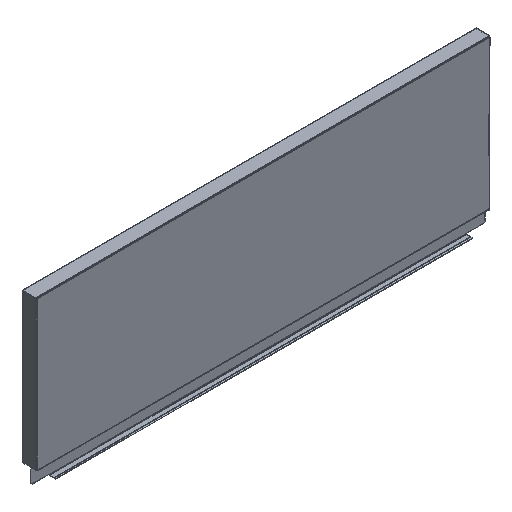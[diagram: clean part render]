
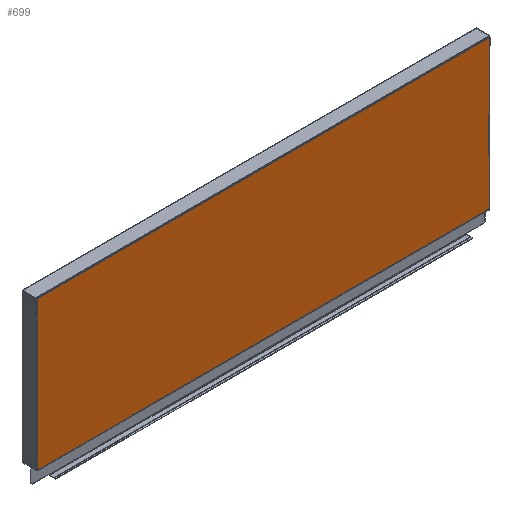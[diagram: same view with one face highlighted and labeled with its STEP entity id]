
A CAD part, isometric view. The second image highlights one B-rep face of the part: STEP entity #699.
In plain terms, the highlighted planar face has unit normal (0, -1, 0).
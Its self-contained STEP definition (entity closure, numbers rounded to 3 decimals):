
#107 = DIRECTION ( 'NONE',  ( 1., 0., 0. ) ) ;
#109 = DIRECTION ( 'NONE',  ( 0., -1., 0. ) ) ;
#110 = CARTESIAN_POINT ( 'NONE',  ( -255., -6., 17. ) ) ;
#111 = PLANE ( 'NONE',  #1272 ) ;
#162 = VERTEX_POINT ( 'NONE', #443 ) ;
#168 = VERTEX_POINT ( 'NONE', #441 ) ;
#170 = VERTEX_POINT ( 'NONE', #440 ) ;
#175 = VERTEX_POINT ( 'NONE', #439 ) ;
#177 = VERTEX_POINT ( 'NONE', #438 ) ;
#250 = VERTEX_POINT ( 'NONE', #416 ) ;
#262 = VERTEX_POINT ( 'NONE', #412 ) ;
#265 = VERTEX_POINT ( 'NONE', #411 ) ;
#295 = VERTEX_POINT ( 'NONE', #402 ) ;
#394 = CARTESIAN_POINT ( 'NONE',  ( 253.5, -6., 17.5 ) ) ;
#402 = CARTESIAN_POINT ( 'NONE',  ( 254., -6., 183.5 ) ) ;
#411 = CARTESIAN_POINT ( 'NONE',  ( 254., -6., 184. ) ) ;
#412 = CARTESIAN_POINT ( 'NONE',  ( 254., -6., 17.5 ) ) ;
#416 = CARTESIAN_POINT ( 'NONE',  ( -254., -6., 184. ) ) ;
#438 = CARTESIAN_POINT ( 'NONE',  ( 253.5, -6., 17. ) ) ;
#439 = CARTESIAN_POINT ( 'NONE',  ( -254., -6., 183.5 ) ) ;
#440 = CARTESIAN_POINT ( 'NONE',  ( -253.5, -6., 17. ) ) ;
#441 = CARTESIAN_POINT ( 'NONE',  ( -254., -6., 17.5 ) ) ;
#443 = CARTESIAN_POINT ( 'NONE',  ( -253.5, -6., 17.5 ) ) ;
#471 = VERTEX_POINT ( 'NONE', #394 ) ;
#615 = CARTESIAN_POINT ( 'NONE',  ( -254., -6., 202.385 ) ) ;
#616 = DIRECTION ( 'NONE',  ( 0., 0., -1. ) ) ;
#627 = CARTESIAN_POINT ( 'NONE',  ( -255., -6., 17.5 ) ) ;
#628 = DIRECTION ( 'NONE',  ( 1., 0., 0. ) ) ;
#629 = CARTESIAN_POINT ( 'NONE',  ( -253.5, -6., 17.5 ) ) ;
#630 = DIRECTION ( 'NONE',  ( 0., 0., -1. ) ) ;
#631 = CARTESIAN_POINT ( 'NONE',  ( -255., -6., 17. ) ) ;
#632 = DIRECTION ( 'NONE',  ( 1., 0., 0. ) ) ;
#633 = CARTESIAN_POINT ( 'NONE',  ( 253.5, -6., 15.3 ) ) ;
#634 = DIRECTION ( 'NONE',  ( 0., 0., 1. ) ) ;
#635 = CARTESIAN_POINT ( 'NONE',  ( 253.5, -6., 17.5 ) ) ;
#636 = DIRECTION ( 'NONE',  ( 1., 0., 0. ) ) ;
#637 = CARTESIAN_POINT ( 'NONE',  ( 254., -6., 202.385 ) ) ;
#638 = DIRECTION ( 'NONE',  ( 0., 0., -1. ) ) ;
#699 = ADVANCED_FACE ( 'NONE', ( #1997 ), #111, .T. ) ;
#738 = EDGE_CURVE ( 'NONE', #265, #295, #2049, .T. ) ;
#739 = EDGE_CURVE ( 'NONE', #250, #265, #2051, .T. ) ;
#898 = EDGE_LOOP ( 'NONE', ( #1920, #1919, #1918, #1917, #1916, #1915, #1914, #1913, #1912, #1911 ) ) ;
#1068 = DIRECTION ( 'NONE',  ( 0., 0., -1. ) ) ;
#1069 = CARTESIAN_POINT ( 'NONE',  ( -254., -6., 202.385 ) ) ;
#1226 = EDGE_CURVE ( 'NONE', #250, #175, #2284, .T. ) ;
#1272 = AXIS2_PLACEMENT_3D ( 'NONE', #110, #109, #107 ) ;
#1614 = DIRECTION ( 'NONE',  ( 1., 0., 0. ) ) ;
#1615 = CARTESIAN_POINT ( 'NONE',  ( -255., -6., 184. ) ) ;
#1617 = DIRECTION ( 'NONE',  ( 0., 0., -1. ) ) ;
#1618 = CARTESIAN_POINT ( 'NONE',  ( 254., -6., 202.385 ) ) ;
#1911 = ORIENTED_EDGE ( 'NONE', *, *, #1226, .T. ) ;
#1912 = ORIENTED_EDGE ( 'NONE', *, *, #739, .F. ) ;
#1913 = ORIENTED_EDGE ( 'NONE', *, *, #738, .F. ) ;
#1914 = ORIENTED_EDGE ( 'NONE', *, *, #2484, .F. ) ;
#1915 = ORIENTED_EDGE ( 'NONE', *, *, #2483, .T. ) ;
#1916 = ORIENTED_EDGE ( 'NONE', *, *, #2482, .T. ) ;
#1917 = ORIENTED_EDGE ( 'NONE', *, *, #2481, .T. ) ;
#1918 = ORIENTED_EDGE ( 'NONE', *, *, #2480, .T. ) ;
#1919 = ORIENTED_EDGE ( 'NONE', *, *, #2479, .T. ) ;
#1920 = ORIENTED_EDGE ( 'NONE', *, *, #2474, .T. ) ;
#1997 = FACE_OUTER_BOUND ( 'NONE', #898, .T. ) ;
#2049 = LINE ( 'NONE', #1618, #2050 ) ;
#2050 = VECTOR ( 'NONE', #1617, 1000. ) ;
#2051 = LINE ( 'NONE', #1615, #2052 ) ;
#2052 = VECTOR ( 'NONE', #1614, 1000. ) ;
#2284 = LINE ( 'NONE', #1069, #2285 ) ;
#2285 = VECTOR ( 'NONE', #1068, 1000. ) ;
#2396 = LINE ( 'NONE', #615, #2398 ) ;
#2398 = VECTOR ( 'NONE', #616, 1000. ) ;
#2404 = LINE ( 'NONE', #627, #2406 ) ;
#2406 = VECTOR ( 'NONE', #628, 1000. ) ;
#2407 = LINE ( 'NONE', #629, #2408 ) ;
#2408 = VECTOR ( 'NONE', #630, 1000. ) ;
#2409 = LINE ( 'NONE', #631, #2410 ) ;
#2410 = VECTOR ( 'NONE', #632, 1000. ) ;
#2411 = LINE ( 'NONE', #633, #2412 ) ;
#2412 = VECTOR ( 'NONE', #634, 1000. ) ;
#2413 = LINE ( 'NONE', #635, #2414 ) ;
#2414 = VECTOR ( 'NONE', #636, 1000. ) ;
#2415 = LINE ( 'NONE', #637, #2416 ) ;
#2416 = VECTOR ( 'NONE', #638, 1000. ) ;
#2474 = EDGE_CURVE ( 'NONE', #175, #168, #2396, .T. ) ;
#2479 = EDGE_CURVE ( 'NONE', #168, #162, #2404, .T. ) ;
#2480 = EDGE_CURVE ( 'NONE', #162, #170, #2407, .T. ) ;
#2481 = EDGE_CURVE ( 'NONE', #170, #177, #2409, .T. ) ;
#2482 = EDGE_CURVE ( 'NONE', #177, #471, #2411, .T. ) ;
#2483 = EDGE_CURVE ( 'NONE', #471, #262, #2413, .T. ) ;
#2484 = EDGE_CURVE ( 'NONE', #295, #262, #2415, .T. ) ;
